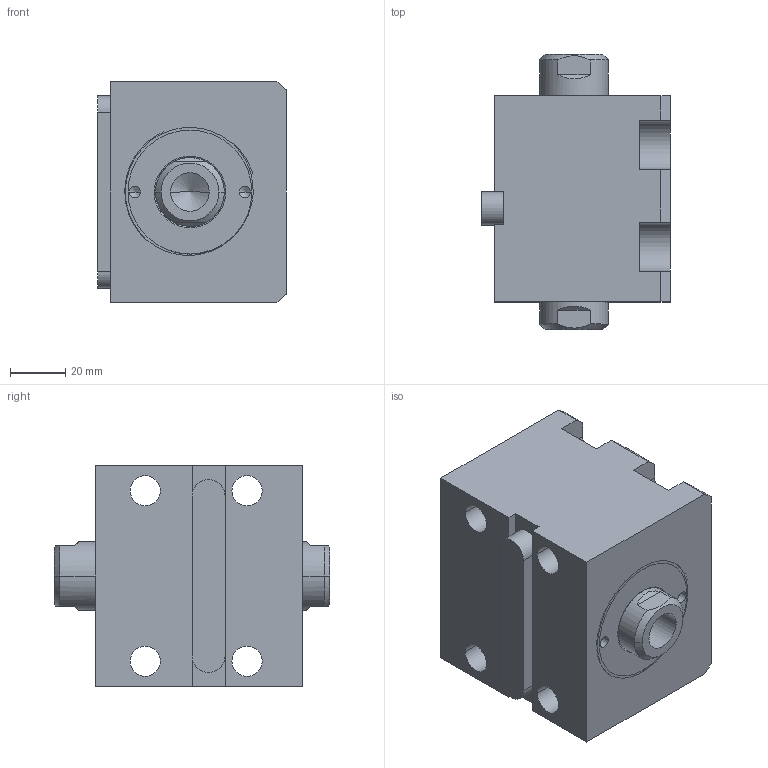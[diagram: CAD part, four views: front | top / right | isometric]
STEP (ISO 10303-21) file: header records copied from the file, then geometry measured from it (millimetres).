
FILE_DESCRIPTION (( 'STEP AP214' ), '1' );
FILE_NAME ('chtb-lw40x5n_asm.STEP', '2018-06-04T11:07:30', ( 'Windows' ), ( 'Microsoft' ), 'SwSTEP 2.0', 'SolidWorks 2015', '' );
FILE_SCHEMA (( 'AUTOMOTIVE_DESIGN' ));
Length unit declared in the file: millimetre
Products named in the file (5): CHTB-SW40X5NHSG; CHTB-SD40QG; CHTB-LW40X5NBT; CHTB-LA40PJ; chtb-lw40x5n_asm
Assembly tree (4 placements, depth 2):
  chtb-lw40x5n_asm
    CHTB-LA40PJ
    CHTB-LW40X5NBT
    CHTB-SD40QG
    CHTB-SW40X5NHSG
Bounding box: 68.5 x 100 x 80 mm (x, y, z)
Volume: 349138.1 mm3; surface area: 75177 mm2
Topology: 4 solids, 4 shells, 172 faces, 462 edges, 304 vertices
Faces by surface type: cylinder 77, plane 52, cone 17, bspline 14, torus 12
Entity records: 10654 total; most frequent: CARTESIAN_POINT 6188, ORIENTED_EDGE 904, DIRECTION 853, EDGE_CURVE 452, AXIS2_PLACEMENT_3D 340, VERTEX_POINT 304, EDGE_LOOP 204, CIRCLE 175
